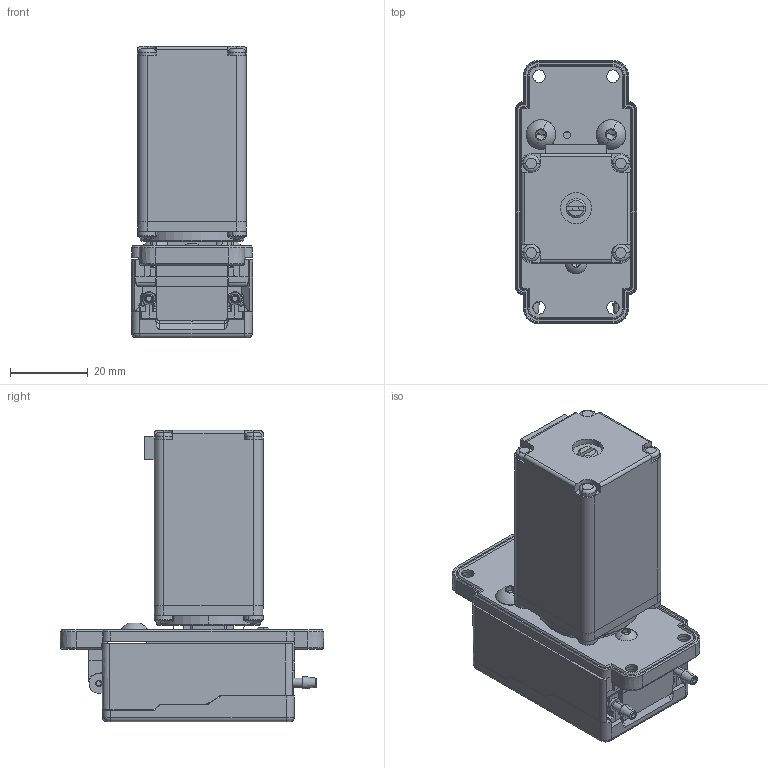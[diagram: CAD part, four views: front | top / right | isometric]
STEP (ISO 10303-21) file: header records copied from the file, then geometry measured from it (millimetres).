
FILE_DESCRIPTION (( 'STEP AP203' ), '1' );
FILE_NAME ('29QQ stepper F.STEP', '2021-05-23T12:28:28', ( '' ), ( '' ), 'SwSTEP 2.0', 'SolidWorks 2020', '' );
FILE_SCHEMA (( 'CONFIG_CONTROL_DESIGN' ));
Length unit declared in the file: millimetre
Products named in the file (1): 29QQ stepper F
Bounding box: 31.17 x 67.66 x 74.81 mm (x, y, z)
Surface area: 20197.8 mm2 (no closed solid volume)
Topology: 0 solids, 34 shells, 648 faces, 2154 edges, 1521 vertices
Faces by surface type: plane 300, cylinder 136, cone 122, torus 44, bspline 37, sphere 9
Entity records: 25082 total; most frequent: CARTESIAN_POINT 7042, DIRECTION 3661, ORIENTED_EDGE 3461, EDGE_CURVE 2148, VERTEX_POINT 1521, AXIS2_PLACEMENT_3D 1239, VECTOR 1183, LINE 1183
